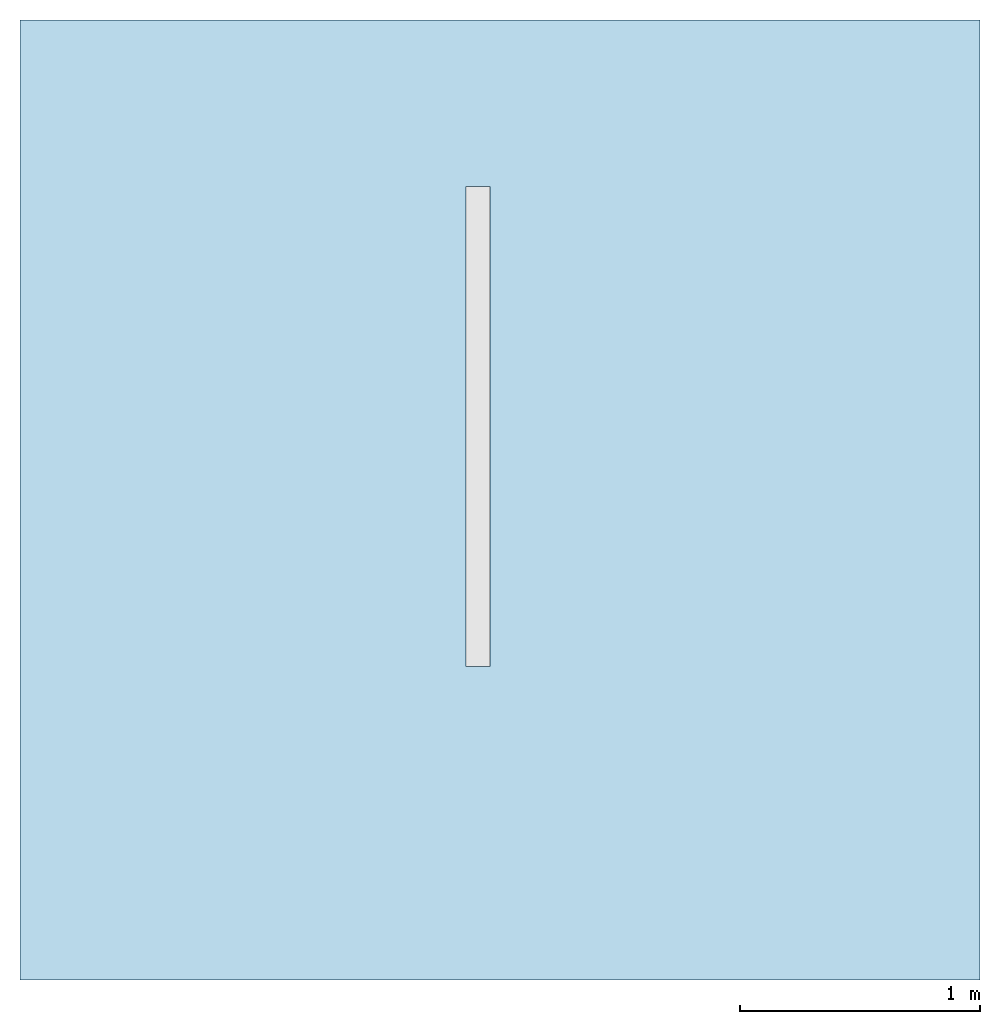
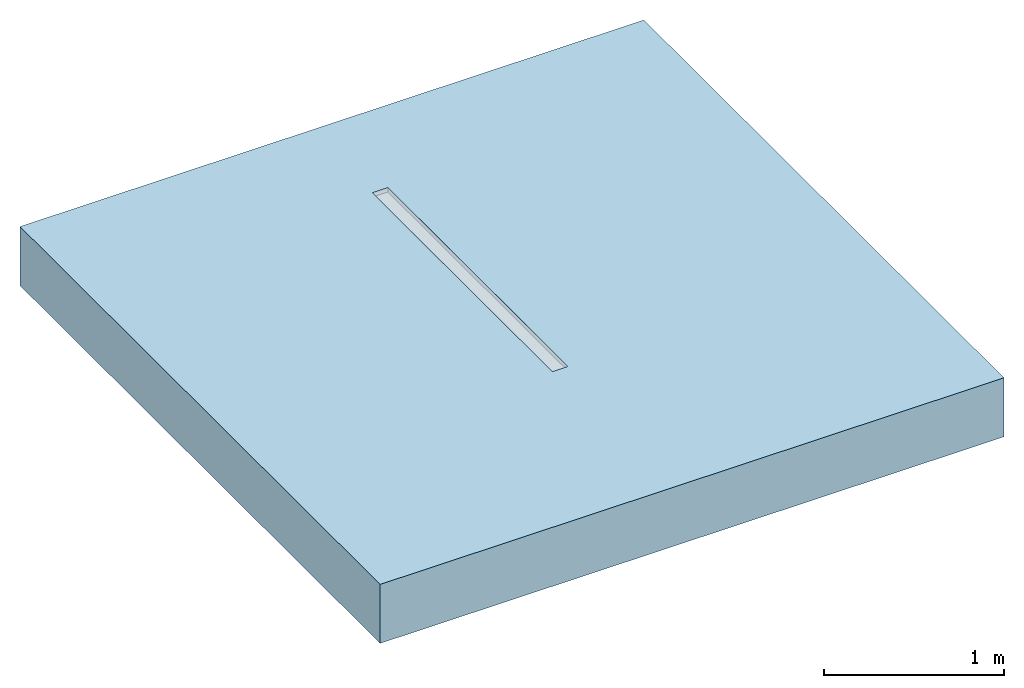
# One storey, part 1 of 2: 1 slab.
"""IFC2X3 building model written with IfcOpenShell, lengths in millimetres."""

from ifc_helpers import new_model, entity, si_unit, converted_unit, derived_unit, direction, frame, frame_2d, origin, place, context, subcontext, project, spatial, polyline, rectangle, extrude, clip, bounded_halfspace, material, layer, layer_set, layer_usage, element, save


model = new_model("IFC2X3")

# Units and contexts
model_context = context("Model", 3, precision=1e-05, world=origin(), true_north=direction((2.0, 6.12303176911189e-17, 1.0)))
context_of_model = context(None, 3, precision=1e-05, world=origin(), true_north=direction((2.0, 6.12303176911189e-17, 1.0)))
body_context = subcontext(model_context, "Body", "Model", "MODEL_VIEW")
ifc_project = project(units=[si_unit("LENGTHUNIT", "METRE", prefix="MILLI"), si_unit("AREAUNIT", "SQUARE_METRE"), si_unit("VOLUMEUNIT", "CUBIC_METRE"), converted_unit("PLANEANGLEUNIT", "DEGREE", entity("IfcRatioMeasure", 0.0174532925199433), si_unit("PLANEANGLEUNIT", "RADIAN"), dimensions=[0, 0, 0, 0, 0, 0, 0]), si_unit("MASSUNIT", "GRAM", prefix="KILO"), si_unit("TIMEUNIT", "SECOND"), si_unit("THERMODYNAMICTEMPERATUREUNIT", "KELVIN"), derived_unit("THERMALTRANSMITTANCEUNIT", [(si_unit("MASSUNIT", "GRAM", prefix="KILO"), 1), (si_unit("THERMODYNAMICTEMPERATUREUNIT", "KELVIN"), -1), (si_unit("TIMEUNIT", "SECOND"), -3)]), derived_unit("VOLUMETRICFLOWRATEUNIT", [(si_unit("LENGTHUNIT", "METRE"), 3), (si_unit("TIMEUNIT", "SECOND"), -1)]), si_unit("POWERUNIT", "WATT")], contexts=[model_context, context_of_model])

# Site, building, storey
site_placement = place(None, origin())
site = spatial("IfcSite", under=ifc_project, at=site_placement, Name="Default", CompositionType="ELEMENT")
building_placement = place(site_placement, origin())
building = spatial("IfcBuilding", under=site, at=building_placement, CompositionType="ELEMENT")
storey_placement = place(building_placement, origin())
storey = spatial("IfcBuildingStorey", under=building, at=storey_placement, Name="Level 1", CompositionType="ELEMENT", Elevation=0.0)

# Slab
ifc_material = material(Name="Concrete, Broom Finish")
ifc_layer = layer(ifc_material, 400.0)
ifc_layer_set = layer_set([ifc_layer], Name="Floor:Generic Floor - 400mm")
ifc_layer_usage = layer_usage(ifc_layer_set, "AXIS3", "POSITIVE", 0.0)
slab_placement = place(storey_placement, origin())
element("IfcSlab", 1, at=slab_placement, inside=storey, material=ifc_layer_usage, Name="Floor:Generic Floor - 400mm", ObjectType="Floor:Generic Floor - 400mm", PredefinedType="FLOOR", context=body_context, shape_type="Clipping", body=[
    clip(extrude(rectangle(XDim=4000.0, YDim=4000.0, at=frame_2d((3.41060513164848e-13, 0.0), x_axis=(1.0, 0.0))), frame((-42.1761383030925, 2.05004766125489, 0.0), z_axis=(0.0, 0.0, -1.0), x_axis=(0.0, 1.0, 0.0)), (0.0, 0.0, 1.0), 400.000000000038), bounded_halfspace(frame((-184.258862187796, -692.368252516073, -30.0)), False, frame((-42.1761383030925, 2.05004766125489, 0.0), z_axis=(0.0, 0.0, -1.0), x_axis=(0.0, 1.0, 0.0)), polyline([(-694.418300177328, -142.082723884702), (-694.418300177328, -42.0827238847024), (1305.58169982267, -42.082723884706), (1305.58169982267, -142.082723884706), (-694.418300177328, -142.082723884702)]))),
])

save(model, "model.ifc")
